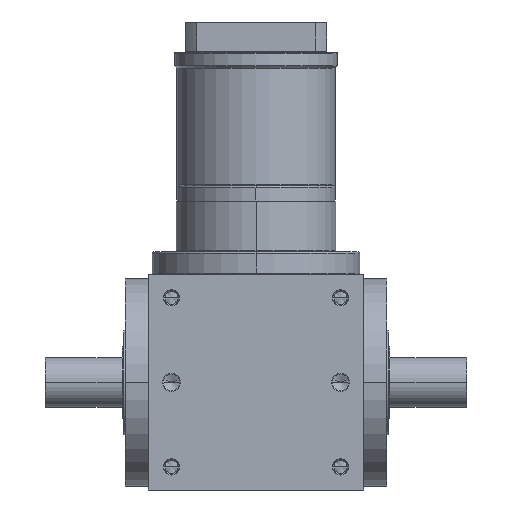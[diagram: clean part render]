
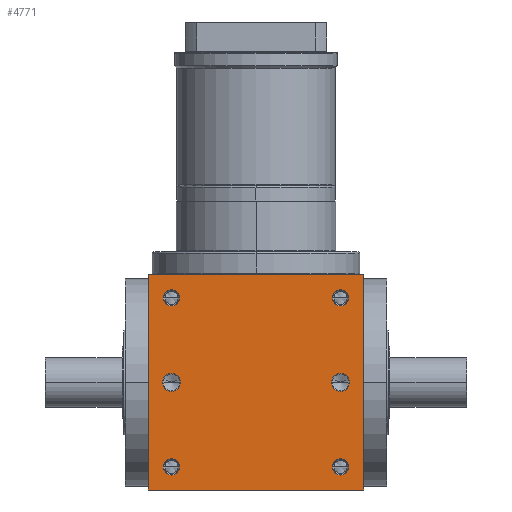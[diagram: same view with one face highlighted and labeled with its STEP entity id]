
A CAD part, front view. The second image highlights one B-rep face of the part: STEP entity #4771.
In plain terms, the highlighted planar face has unit normal (0, -1, 0).
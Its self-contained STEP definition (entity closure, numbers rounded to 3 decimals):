
#5=DIRECTION('',(1.,0.,0.));
#6=VECTOR('',#5,140.);
#7=CARTESIAN_POINT('',(-70.,-70.,-70.));
#8=LINE('',#7,#6);
#155=DIRECTION('',(0.,0.,1.));
#156=VECTOR('',#155,140.);
#157=CARTESIAN_POINT('',(70.,-70.,-70.));
#158=LINE('',#157,#156);
#209=DIRECTION('',(0.,0.,1.));
#210=VECTOR('',#209,140.);
#211=CARTESIAN_POINT('',(-70.,-70.,-70.));
#212=LINE('',#211,#210);
#213=CARTESIAN_POINT('',(55.,-70.,55.));
#214=DIRECTION('',(0.,1.,0.));
#215=DIRECTION('',(-1.,0.,0.));
#216=AXIS2_PLACEMENT_3D('',#213,#214,#215);
#218=CARTESIAN_POINT('',(55.,-70.,55.));
#219=DIRECTION('',(0.,1.,0.));
#220=DIRECTION('',(1.,0.,0.));
#221=AXIS2_PLACEMENT_3D('',#218,#219,#220);
#223=CARTESIAN_POINT('',(-55.,-70.,55.));
#224=DIRECTION('',(0.,1.,0.));
#225=DIRECTION('',(-1.,0.,0.));
#226=AXIS2_PLACEMENT_3D('',#223,#224,#225);
#228=CARTESIAN_POINT('',(-55.,-70.,55.));
#229=DIRECTION('',(0.,1.,0.));
#230=DIRECTION('',(1.,0.,0.));
#231=AXIS2_PLACEMENT_3D('',#228,#229,#230);
#233=CARTESIAN_POINT('',(55.,-70.,-55.));
#234=DIRECTION('',(0.,1.,0.));
#235=DIRECTION('',(-1.,0.,0.));
#236=AXIS2_PLACEMENT_3D('',#233,#234,#235);
#238=CARTESIAN_POINT('',(55.,-70.,-55.));
#239=DIRECTION('',(0.,1.,0.));
#240=DIRECTION('',(1.,0.,0.));
#241=AXIS2_PLACEMENT_3D('',#238,#239,#240);
#243=CARTESIAN_POINT('',(-55.,-70.,-55.));
#244=DIRECTION('',(0.,1.,0.));
#245=DIRECTION('',(-1.,0.,0.));
#246=AXIS2_PLACEMENT_3D('',#243,#244,#245);
#248=CARTESIAN_POINT('',(-55.,-70.,-55.));
#249=DIRECTION('',(0.,1.,0.));
#250=DIRECTION('',(1.,0.,0.));
#251=AXIS2_PLACEMENT_3D('',#248,#249,#250);
#253=CARTESIAN_POINT('',(-55.,-70.,0.));
#254=DIRECTION('',(0.,1.,0.));
#255=DIRECTION('',(1.,0.,0.));
#256=AXIS2_PLACEMENT_3D('',#253,#254,#255);
#258=CARTESIAN_POINT('',(-55.,-70.,0.));
#259=DIRECTION('',(0.,1.,0.));
#260=DIRECTION('',(-1.,0.,0.));
#261=AXIS2_PLACEMENT_3D('',#258,#259,#260);
#263=CARTESIAN_POINT('',(55.,-70.,0.));
#264=DIRECTION('',(0.,1.,0.));
#265=DIRECTION('',(1.,0.,0.));
#266=AXIS2_PLACEMENT_3D('',#263,#264,#265);
#268=CARTESIAN_POINT('',(55.,-70.,0.));
#269=DIRECTION('',(0.,1.,0.));
#270=DIRECTION('',(-1.,0.,0.));
#271=AXIS2_PLACEMENT_3D('',#268,#269,#270);
#285=DIRECTION('',(1.,0.,0.));
#286=VECTOR('',#285,140.);
#287=CARTESIAN_POINT('',(-70.,-70.,70.));
#288=LINE('',#287,#286);
#3824=CARTESIAN_POINT('',(-70.,-70.,-70.));
#3826=VERTEX_POINT('',#3824);
#3827=CARTESIAN_POINT('',(70.,-70.,-70.));
#3828=VERTEX_POINT('',#3827);
#3832=CARTESIAN_POINT('',(-70.,-70.,70.));
#3834=VERTEX_POINT('',#3832);
#3835=CARTESIAN_POINT('',(70.,-70.,70.));
#3836=VERTEX_POINT('',#3835);
#4015=CARTESIAN_POINT('',(49.75,-70.,55.));
#4016=CARTESIAN_POINT('',(60.25,-70.,55.));
#4017=VERTEX_POINT('',#4015);
#4018=VERTEX_POINT('',#4016);
#4023=CARTESIAN_POINT('',(-60.25,-70.,55.));
#4024=CARTESIAN_POINT('',(-49.75,-70.,55.));
#4025=VERTEX_POINT('',#4023);
#4026=VERTEX_POINT('',#4024);
#4031=CARTESIAN_POINT('',(49.75,-70.,-55.));
#4032=CARTESIAN_POINT('',(60.25,-70.,-55.));
#4033=VERTEX_POINT('',#4031);
#4034=VERTEX_POINT('',#4032);
#4039=CARTESIAN_POINT('',(-60.25,-70.,-55.));
#4040=CARTESIAN_POINT('',(-49.75,-70.,-55.));
#4041=VERTEX_POINT('',#4039);
#4042=VERTEX_POINT('',#4040);
#4399=CARTESIAN_POINT('',(-49.15,-70.,
0.));
#4400=CARTESIAN_POINT('',(-60.85,-70.,
0.));
#4401=VERTEX_POINT('',#4399);
#4402=VERTEX_POINT('',#4400);
#4407=CARTESIAN_POINT('',(60.85,-70.,0.));
#4408=CARTESIAN_POINT('',(49.15,-70.,0.));
#4409=VERTEX_POINT('',#4407);
#4410=VERTEX_POINT('',#4408);
#4723=CARTESIAN_POINT('',(-70.,-70.,-70.));
#4724=DIRECTION('',(0.,-1.,0.));
#4725=DIRECTION('',(1.,0.,0.));
#4726=AXIS2_PLACEMENT_3D('',#4723,#4724,#4725);
#4727=PLANE('',#4726);
#4728=ORIENTED_EDGE('',*,*,#4563,.F.);
#4729=ORIENTED_EDGE('',*,*,#4606,.T.);
#4731=ORIENTED_EDGE('',*,*,#4730,.T.);
#4732=ORIENTED_EDGE('',*,*,#4685,.F.);
#4733=EDGE_LOOP('',(#4728,#4729,#4731,#4732));
#4734=FACE_OUTER_BOUND('',#4733,.F.);
#4736=ORIENTED_EDGE('',*,*,#4735,.F.);
#4738=ORIENTED_EDGE('',*,*,#4737,.F.);
#4739=EDGE_LOOP('',(#4736,#4738));
#4740=FACE_BOUND('',#4739,.F.);
#4742=ORIENTED_EDGE('',*,*,#4741,.F.);
#4744=ORIENTED_EDGE('',*,*,#4743,.F.);
#4745=EDGE_LOOP('',(#4742,#4744));
#4746=FACE_BOUND('',#4745,.F.);
#4748=ORIENTED_EDGE('',*,*,#4747,.F.);
#4750=ORIENTED_EDGE('',*,*,#4749,.F.);
#4751=EDGE_LOOP('',(#4748,#4750));
#4752=FACE_BOUND('',#4751,.F.);
#4754=ORIENTED_EDGE('',*,*,#4753,.F.);
#4756=ORIENTED_EDGE('',*,*,#4755,.F.);
#4757=EDGE_LOOP('',(#4754,#4756));
#4758=FACE_BOUND('',#4757,.F.);
#4760=ORIENTED_EDGE('',*,*,#4759,.F.);
#4762=ORIENTED_EDGE('',*,*,#4761,.F.);
#4763=EDGE_LOOP('',(#4760,#4762));
#4764=FACE_BOUND('',#4763,.F.);
#4766=ORIENTED_EDGE('',*,*,#4765,.F.);
#4768=ORIENTED_EDGE('',*,*,#4767,.F.);
#4769=EDGE_LOOP('',(#4766,#4768));
#4770=FACE_BOUND('',#4769,.F.);
#4771=ADVANCED_FACE('',(#4734,#4740,#4746,#4752,#4758,#4764,#4770),#4727,.T.);
#217=CIRCLE('',#216,5.25);
#222=CIRCLE('',#221,5.25);
#227=CIRCLE('',#226,5.25);
#232=CIRCLE('',#231,5.25);
#237=CIRCLE('',#236,5.25);
#242=CIRCLE('',#241,5.25);
#247=CIRCLE('',#246,5.25);
#252=CIRCLE('',#251,5.25);
#257=CIRCLE('',#256,5.85);
#262=CIRCLE('',#261,5.85);
#267=CIRCLE('',#266,5.85);
#272=CIRCLE('',#271,5.85);
#4563=EDGE_CURVE('',#3826,#3828,#8,.T.);
#4606=EDGE_CURVE('',#3826,#3834,#212,.T.);
#4685=EDGE_CURVE('',#3828,#3836,#158,.T.);
#4730=EDGE_CURVE('',#3834,#3836,#288,.T.);
#4735=EDGE_CURVE('',#4017,#4018,#217,.T.);
#4737=EDGE_CURVE('',#4018,#4017,#222,.T.);
#4741=EDGE_CURVE('',#4025,#4026,#227,.T.);
#4743=EDGE_CURVE('',#4026,#4025,#232,.T.);
#4747=EDGE_CURVE('',#4033,#4034,#237,.T.);
#4749=EDGE_CURVE('',#4034,#4033,#242,.T.);
#4753=EDGE_CURVE('',#4041,#4042,#247,.T.);
#4755=EDGE_CURVE('',#4042,#4041,#252,.T.);
#4759=EDGE_CURVE('',#4401,#4402,#257,.T.);
#4761=EDGE_CURVE('',#4402,#4401,#262,.T.);
#4765=EDGE_CURVE('',#4409,#4410,#267,.T.);
#4767=EDGE_CURVE('',#4410,#4409,#272,.T.);
